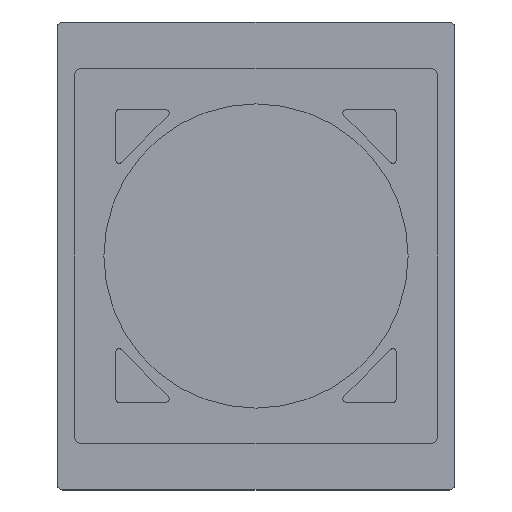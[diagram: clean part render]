
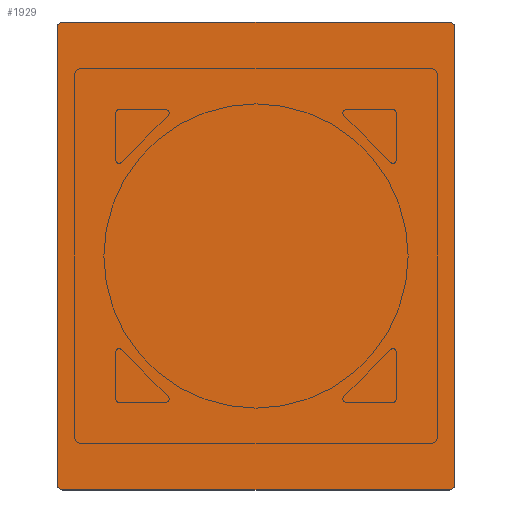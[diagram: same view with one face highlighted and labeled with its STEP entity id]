
A CAD part, top view. The second image highlights one B-rep face of the part: STEP entity #1929.
In plain terms, the highlighted planar face has unit normal (0, 0, 1).
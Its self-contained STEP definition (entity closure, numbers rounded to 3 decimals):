
#153=CIRCLE('',#2161,5.);
#154=CIRCLE('',#2162,5.);
#155=CIRCLE('',#2163,5.);
#156=CIRCLE('',#2164,5.);
#303=FACE_OUTER_BOUND('',#424,.T.);
#424=EDGE_LOOP('',(#1747,#1748,#1749,#1750,#1751,#1752,#1753,#1754));
#585=LINE('',#3327,#754);
#589=LINE('',#3336,#758);
#591=LINE('',#3341,#760);
#597=LINE('',#3354,#766);
#754=VECTOR('',#2725,1000.);
#758=VECTOR('',#2731,1000.);
#760=VECTOR('',#2735,1000.);
#766=VECTOR('',#2743,1000.);
#937=VERTEX_POINT('',#3324);
#938=VERTEX_POINT('',#3326);
#941=VERTEX_POINT('',#3333);
#942=VERTEX_POINT('',#3335);
#943=VERTEX_POINT('',#3339);
#944=VERTEX_POINT('',#3340);
#949=VERTEX_POINT('',#3351);
#950=VERTEX_POINT('',#3353);
#1205=EDGE_CURVE('',#938,#937,#585,.T.);
#1209=EDGE_CURVE('',#942,#941,#589,.T.);
#1211=EDGE_CURVE('',#943,#944,#591,.T.);
#1217=EDGE_CURVE('',#950,#949,#597,.T.);
#1219=EDGE_CURVE('',#941,#943,#153,.T.);
#1220=EDGE_CURVE('',#944,#950,#154,.T.);
#1221=EDGE_CURVE('',#949,#938,#155,.T.);
#1222=EDGE_CURVE('',#937,#942,#156,.T.);
#1747=ORIENTED_EDGE('',*,*,#1209,.T.);
#1748=ORIENTED_EDGE('',*,*,#1219,.T.);
#1749=ORIENTED_EDGE('',*,*,#1211,.T.);
#1750=ORIENTED_EDGE('',*,*,#1220,.T.);
#1751=ORIENTED_EDGE('',*,*,#1217,.T.);
#1752=ORIENTED_EDGE('',*,*,#1221,.T.);
#1753=ORIENTED_EDGE('',*,*,#1205,.T.);
#1754=ORIENTED_EDGE('',*,*,#1222,.T.);
#1828=PLANE('',#2160);
#1929=ADVANCED_FACE('',(#303),#1828,.T.);
#2160=AXIS2_PLACEMENT_3D('',#3356,#2745,#2746);
#2161=AXIS2_PLACEMENT_3D('',#3357,#2747,#2748);
#2162=AXIS2_PLACEMENT_3D('',#3358,#2749,#2750);
#2163=AXIS2_PLACEMENT_3D('',#3359,#2751,#2752);
#2164=AXIS2_PLACEMENT_3D('',#3360,#2753,#2754);
#2725=DIRECTION('',(0.,1.,0.));
#2731=DIRECTION('',(-1.,0.,0.));
#2735=DIRECTION('',(0.,-1.,0.));
#2743=DIRECTION('',(1.,0.,0.));
#2745=DIRECTION('center_axis',(0.,0.,1.));
#2746=DIRECTION('ref_axis',(1.,0.,0.));
#2747=DIRECTION('center_axis',(0.,0.,1.));
#2748=DIRECTION('ref_axis',(1.,0.,0.));
#2749=DIRECTION('center_axis',(0.,0.,1.));
#2750=DIRECTION('ref_axis',(1.,0.,0.));
#2751=DIRECTION('center_axis',(0.,0.,1.));
#2752=DIRECTION('ref_axis',(1.,0.,0.));
#2753=DIRECTION('center_axis',(0.,0.,1.));
#2754=DIRECTION('ref_axis',(1.,0.,0.));
#3324=CARTESIAN_POINT('',(170.,195.,0.5));
#3326=CARTESIAN_POINT('',(170.,-195.,0.5));
#3327=CARTESIAN_POINT('',(170.,200.,0.5));
#3333=CARTESIAN_POINT('',(-165.,200.,0.5));
#3335=CARTESIAN_POINT('',(165.,200.,0.5));
#3336=CARTESIAN_POINT('',(-170.,200.,0.5));
#3339=CARTESIAN_POINT('',(-170.,195.,0.5));
#3340=CARTESIAN_POINT('',(-170.,-195.,0.5));
#3341=CARTESIAN_POINT('',(-170.,200.,0.5));
#3351=CARTESIAN_POINT('',(165.,-200.,0.5));
#3353=CARTESIAN_POINT('',(-165.,-200.,0.5));
#3354=CARTESIAN_POINT('',(-170.,-200.,0.5));
#3356=CARTESIAN_POINT('Origin',(0.,0.,0.5));
#3357=CARTESIAN_POINT('Origin',(-165.,195.,0.5));
#3358=CARTESIAN_POINT('Origin',(-165.,-195.,0.5));
#3359=CARTESIAN_POINT('Origin',(165.,-195.,0.5));
#3360=CARTESIAN_POINT('Origin',(165.,195.,0.5));
